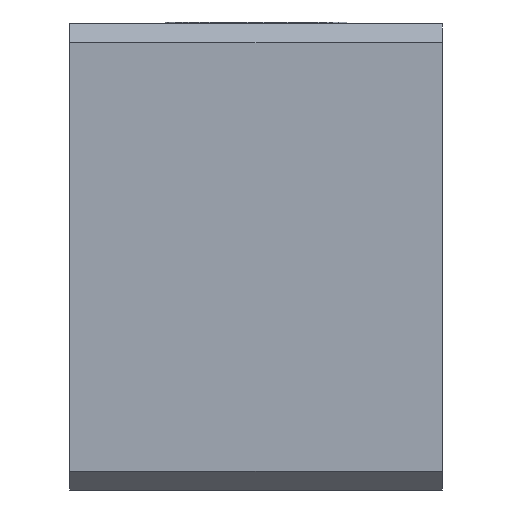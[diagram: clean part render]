
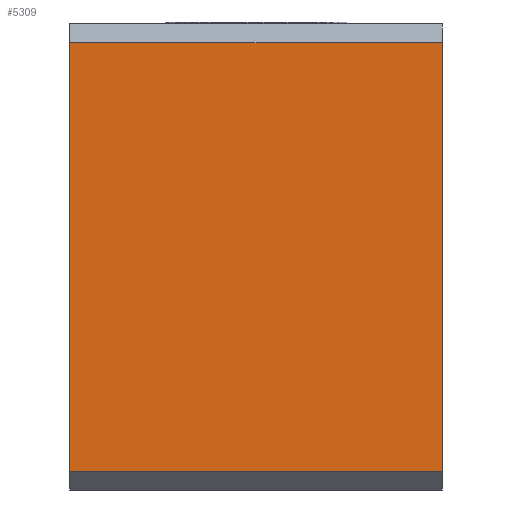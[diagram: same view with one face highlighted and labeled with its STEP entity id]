
A CAD part, front view. The second image highlights one B-rep face of the part: STEP entity #5309.
In plain terms, the highlighted planar face has unit normal (0, -1, 0).
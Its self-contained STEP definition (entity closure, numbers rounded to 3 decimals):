
#1417 = ORIENTED_EDGE ( 'NONE', *, *, #2835, .T. ) ;
#1999 = EDGE_CURVE ( 'NONE', #3535, #7542, #5069, .T. ) ;
#2512 = CARTESIAN_POINT ( 'NONE',  ( -6.489, 10.482, -11.5 ) ) ;
#2719 = LINE ( 'NONE', #2792, #3621 ) ;
#2792 = CARTESIAN_POINT ( 'NONE',  ( 13.511, 10.482, 0. ) ) ;
#2835 = EDGE_CURVE ( 'NONE', #3535, #3754, #2719, .T. ) ;
#3358 = DIRECTION ( 'NONE',  ( 0., 0., 1. ) ) ;
#3535 = VERTEX_POINT ( 'NONE', #10331 ) ;
#3621 = VECTOR ( 'NONE', #3626, 1000. ) ;
#3626 = DIRECTION ( 'NONE',  ( 0., 0., 1. ) ) ;
#3695 = DIRECTION ( 'NONE',  ( 1., 0., 0. ) ) ;
#3754 = VERTEX_POINT ( 'NONE', #3993 ) ;
#3818 = LINE ( 'NONE', #4529, #7922 ) ;
#3989 = FACE_OUTER_BOUND ( 'NONE', #9289, .T. ) ;
#3993 = CARTESIAN_POINT ( 'NONE',  ( 13.511, 10.482, 11.5 ) ) ;
#4143 = PLANE ( 'NONE',  #5859 ) ;
#4529 = CARTESIAN_POINT ( 'NONE',  ( 3.511, 10.482, 11.5 ) ) ;
#4792 = CARTESIAN_POINT ( 'NONE',  ( 3.511, 10.482, -11.5 ) ) ;
#4980 = CARTESIAN_POINT ( 'NONE',  ( -6.489, 10.482, -11.5 ) ) ;
#5069 = LINE ( 'NONE', #4792, #9428 ) ;
#5127 = DIRECTION ( 'NONE',  ( -1., 0., 0. ) ) ;
#5296 = DIRECTION ( 'NONE',  ( 0., 0., 1. ) ) ;
#5309 = ADVANCED_FACE ( 'NONE', ( #3989 ), #4143, .F. ) ;
#5859 = AXIS2_PLACEMENT_3D ( 'NONE', #2512, #8273, #3358 ) ;
#5902 = VERTEX_POINT ( 'NONE', #6050 ) ;
#6050 = CARTESIAN_POINT ( 'NONE',  ( -6.489, 10.482, 11.5 ) ) ;
#6789 = ORIENTED_EDGE ( 'NONE', *, *, #1999, .F. ) ;
#7083 = ORIENTED_EDGE ( 'NONE', *, *, #9670, .F. ) ;
#7542 = VERTEX_POINT ( 'NONE', #4980 ) ;
#7922 = VECTOR ( 'NONE', #3695, 1000. ) ;
#8189 = VECTOR ( 'NONE', #5296, 1000. ) ;
#8273 = DIRECTION ( 'NONE',  ( 0., 1., 0. ) ) ;
#8397 = ORIENTED_EDGE ( 'NONE', *, *, #9734, .F. ) ;
#8443 = LINE ( 'NONE', #8585, #8189 ) ;
#8585 = CARTESIAN_POINT ( 'NONE',  ( -6.489, 10.482, 0. ) ) ;
#9289 = EDGE_LOOP ( 'NONE', ( #8397, #7083, #6789, #1417 ) ) ;
#9428 = VECTOR ( 'NONE', #5127, 1000. ) ;
#9670 = EDGE_CURVE ( 'NONE', #7542, #5902, #8443, .T. ) ;
#9734 = EDGE_CURVE ( 'NONE', #5902, #3754, #3818, .T. ) ;
#10331 = CARTESIAN_POINT ( 'NONE',  ( 13.511, 10.482, -11.5 ) ) ;
